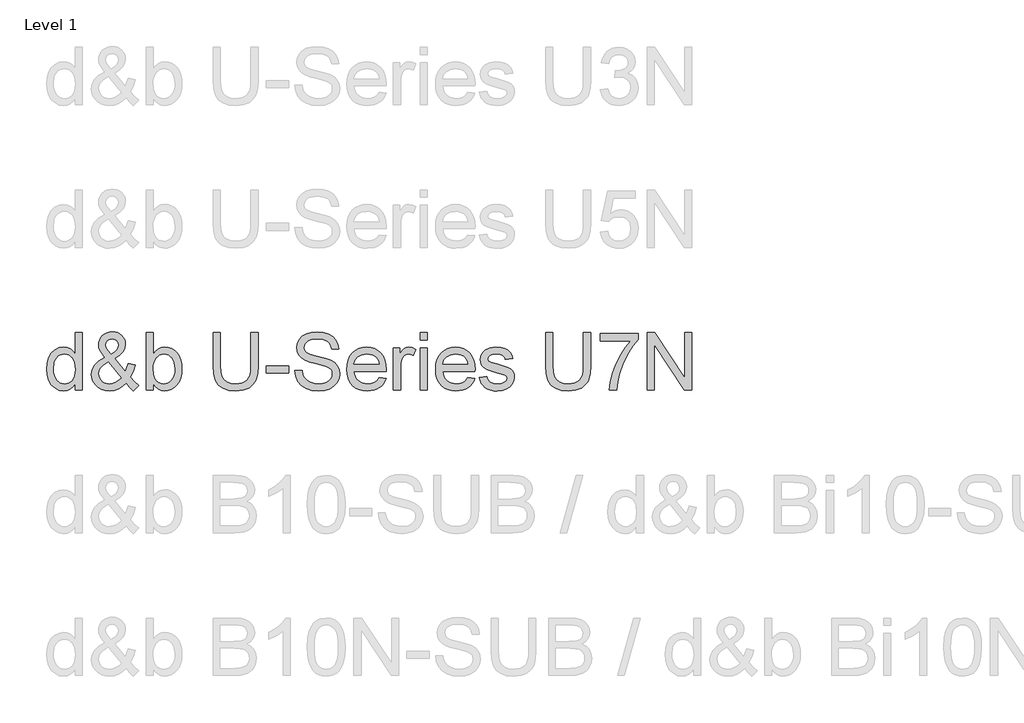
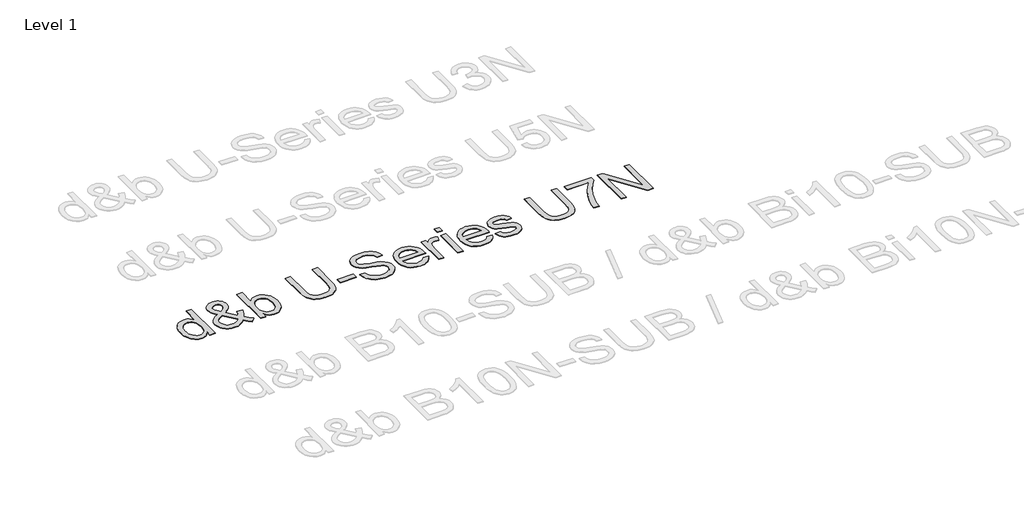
# One storey, part 20 of 29: 1 proxy.
"""IFC4 building model written with IfcOpenShell, lengths in millimetres."""

import ifcopenshell
import ifcopenshell.guid

model = None  # the IFC model being written
_history = None  # IfcOwnerHistory: only IFC2X3 demands one
_inside = {}  # id of a spatial element -> (the spatial element, [elements in it])
_under = {}  # id of a project, library or spatial element -> (it, [spatial elements below it])
_declared = {}  # id of a project -> (the project, [libraries it declares])
_typed = {}  # id of a type object -> (the type object, [elements of that type])
_made_of = {}  # id of a material, layer set ... -> (it, [elements and type objects made of it])


def new_model(schema):
    """Start an empty IFC model of exactly this schema.

    Asked for "IFC4X3", IfcOpenShell would pick the latest addendum, in which some entities
    have other attributes; the version numbers below select the first issue.
    IFC2X3 requires an IfcOwnerHistory on every rooted entity: one is made here for all.
    """
    global model, _history
    if schema == "IFC4X3":
        model = ifcopenshell.file(schema_version=(4, 3, 0, 0))
    else:
        model = ifcopenshell.file(schema=schema)
    _inside.clear()
    _under.clear()
    _declared.clear()
    _typed.clear()
    _made_of.clear()
    _history = None
    if model.schema == "IFC2X3":
        org = make("IfcOrganization", Name="unknown")
        user = make(
            "IfcPersonAndOrganization",
            ThePerson=make("IfcPerson", FamilyName="unknown"),
            TheOrganization=org,
        )
        app = make(
            "IfcApplication",
            ApplicationDeveloper=org,
            Version="unknown",
            ApplicationFullName="unknown",
            ApplicationIdentifier="unknown",
        )
        _history = make(
            "IfcOwnerHistory",
            OwningUser=user,
            OwningApplication=app,
            ChangeAction="ADDED",
            CreationDate=0,
        )
    return model


def make(cls, **values):
    """One entity of the class cls with the attributes given. An attribute that is None is left unset."""
    return model.create_entity(
        cls, **{name: value for name, value in values.items() if value is not None}
    )


def rooted(cls, **values):
    """An entity with a GlobalId (a new one), such as an element, a storey or a relation."""
    return make(cls, GlobalId=ifcopenshell.guid.new(), OwnerHistory=_history, **values)


def si_unit(unit_type, name, prefix=None):
    """IfcSIUnit, for example si_unit("LENGTHUNIT", "METRE", prefix="MILLI")."""
    return make("IfcSIUnit", UnitType=unit_type, Prefix=prefix, Name=name)


def assignment(units):
    """IfcUnitAssignment: the units of a project."""
    return None if units is None else make("IfcUnitAssignment", Units=units)


def point(xyz):
    """IfcCartesianPoint."""
    return None if xyz is None else make("IfcCartesianPoint", Coordinates=xyz)


def direction(xyz):
    """IfcDirection."""
    return None if xyz is None else make("IfcDirection", DirectionRatios=xyz)


def frame(location, z_axis=None, x_axis=None):
    """IfcAxis2Placement3D, a coordinate frame: its origin and axes. An axis left out is left unset."""
    return make(
        "IfcAxis2Placement3D",
        Location=point(location),
        Axis=direction(z_axis),
        RefDirection=direction(x_axis),
    )


def origin():
    """The frame at (0, 0, 0) with its axes left unset."""
    return frame((0.0, 0.0, 0.0))


def origin_with_axes():
    """The frame at (0, 0, 0) with the z axis (0, 0, 1) and the x axis (1, 0, 0) written out."""
    return frame((0.0, 0.0, 0.0), z_axis=(0.0, 0.0, 1.0), x_axis=(1.0, 0.0, 0.0))


def place(relative_to, where):
    """IfcLocalPlacement: puts the frame where relative to a parent placement (None: the world)."""
    return make(
        "IfcLocalPlacement", PlacementRelTo=relative_to, RelativePlacement=where
    )


def context(
    kind, dimensions, precision=None, world=None, true_north=None, identifier=None
):
    """IfcGeometricRepresentationContext, for example the 3D "Model" context."""
    return make(
        "IfcGeometricRepresentationContext",
        ContextIdentifier=identifier,
        ContextType=kind,
        CoordinateSpaceDimension=dimensions,
        Precision=precision,
        WorldCoordinateSystem=world,
        TrueNorth=true_north,
    )


def project(units=None, contexts=None):
    """IfcProject with its units and contexts."""
    return rooted(
        "IfcProject",
        Name="project",
        RepresentationContexts=contexts,
        UnitsInContext=assignment(units),
    )


def spatial(cls, under=None, at=None, **own):
    """A site, building, storey or space (cls), placed at a placement, below another one or the project."""
    s = rooted(cls, ObjectPlacement=at, **own)
    if under is not None:
        _under.setdefault(under.id(), (under, []))[1].append(s)
    return s


def polyline(points):
    """IfcPolyline through the points."""
    return make("IfcPolyline", Points=[point(p) for p in points])


def outline(outer, holes=None, kind="AREA"):
    """IfcArbitraryClosedProfileDef: a profile drawn as a closed curve; with holes, ...WithVoids."""
    if holes is None:
        return make("IfcArbitraryClosedProfileDef", ProfileType=kind, OuterCurve=outer)
    return make(
        "IfcArbitraryProfileDefWithVoids",
        ProfileType=kind,
        OuterCurve=outer,
        InnerCurves=holes,
    )


def extrude(swept, where, along, depth):
    """IfcExtrudedAreaSolid: the profile swept, set in the frame where, extruded along a direction by depth."""
    return make(
        "IfcExtrudedAreaSolid",
        SweptArea=swept,
        Position=where,
        ExtrudedDirection=direction(along),
        Depth=depth,
    )


def shape(context_of_items, identifier, shape_type, items):
    """IfcShapeRepresentation: the items that make up one representation, for example the "Body"."""
    return make(
        "IfcShapeRepresentation",
        ContextOfItems=context_of_items,
        RepresentationIdentifier=identifier,
        RepresentationType=shape_type,
        Items=items,
    )


def made_of(thing, what):
    """Note that an element or type object is made of a material, layer set ...; save() writes the relation."""
    if what is not None:
        _made_of.setdefault(what.id(), (what, []))[1].append(thing)
    return thing


def element(
    cls,
    number,
    at=None,
    inside=None,
    cuts=None,
    type_object=None,
    material=None,
    context=None,
    identifier="Body",
    shape_type=None,
    held_by="IfcProductDefinitionShape",
    body=None,
    shapes=None,
    **own,
):
    """One element of the class cls, such as IfcWall. Its Tag is "e" and its number.

    at: its placement. inside: the storey or other place that contains it. cuts: it is an
    opening in that element (IfcRelVoidsElement). A single representation is given by context,
    identifier, shape_type and body (its items); several are given by shapes. held_by: the class
    of the entity that holds the representations. save() writes the other relations.
    """
    e = rooted(cls, Tag="e%d" % number, ObjectPlacement=at, **own)
    if body is not None:
        shapes = [shape(context, identifier, shape_type, body)]
    if shapes is not None:
        e.Representation = make(held_by, Representations=shapes)
    if inside is not None:
        _inside.setdefault(inside.id(), (inside, []))[1].append(e)
    if cuts is not None:
        rooted(
            "IfcRelVoidsElement", RelatingBuildingElement=cuts, RelatedOpeningElement=e
        )
    if type_object is not None:
        _typed.setdefault(type_object.id(), (type_object, []))[1].append(e)
    return made_of(e, material)


def aggregate(whole, parts):
    """IfcRelAggregates: a whole, such as a stair, and the parts it consists of."""
    return rooted("IfcRelAggregates", RelatingObject=whole, RelatedObjects=parts)


def save(model, path):
    """Write the relations noted so far, then the file.

    IfcRelAggregates (storeys below a building ...), IfcRelContainedInSpatialStructure (elements
    in a storey), IfcRelDefinesByType, IfcRelAssociatesMaterial and IfcRelDeclares: one each for
    every whole, place, type object, material and project.
    """
    for whole, parts in _under.values():
        aggregate(whole, parts)
    for where, things in _inside.values():
        rooted(
            "IfcRelContainedInSpatialStructure",
            RelatedElements=things,
            RelatingStructure=where,
        )
    for kind, things in _typed.values():
        rooted("IfcRelDefinesByType", RelatedObjects=things, RelatingType=kind)
    for what, things in _made_of.values():
        rooted("IfcRelAssociatesMaterial", RelatedObjects=things, RelatingMaterial=what)
    for by, libraries in _declared.values():
        rooted("IfcRelDeclares", RelatingContext=by, RelatedDefinitions=libraries)
    model.write(path)


model = new_model("IFC4")

# Units and contexts
model_context = context("Model", 3, world=origin())
ifc_project = project(units=[si_unit("LENGTHUNIT", "METRE", prefix="MILLI")], contexts=[model_context])

# Site, building, storey
site = spatial("IfcSite", under=ifc_project)
building = spatial("IfcBuilding", under=site)
storey = spatial("IfcBuildingStorey", under=building, Name="Level 1", Elevation=0.0)

# Proxy
placement = place(None, origin())
element("IfcBuildingElementProxy", 1, Name="400mm Arial", ObjectType="400mm Arial", at=placement, inside=storey, context=model_context, shape_type="SweptSolid", body=[
    extrude(outline(polyline([(-20788.4119982, 11464.3636615), (-20788.4119982, 11511.7468625), (-20803.4399777, 11488.2698598), (-20821.6440051, 11471.5005722), (-20843.0240804, 11461.4389996), (-20867.5802036, 11458.0851421), (-20900.051921, 11462.9411844), (-20929.7767862, 11477.5093115), (-20954.9399147, 11500.7717163), (-20973.7264219, 11531.7105921), (-20985.4250694, 11569.0751401), (-20989.3246185, 11611.6145614), (-20985.7316377, 11653.6266853), (-20974.9526952, 11691.5675817), (-20957.0000539, 11723.2790097), (-20931.8859763, 11746.6027282), (-20901.5111863, 11760.950126), (-20867.7764073, 11765.7325919), (-20843.20189, 11762.3112894), (-20821.4723268, 11752.0473817), (-20803.0537016, 11736.3142951), (-20788.4119982, 11716.4854555), (-20788.4119982, 11866.1889021), (-20738.1838431, 11866.1889021), (-20738.1838431, 11464.3636615), (-20788.4119982, 11464.3636615)]), holes=[polyline([(-20939.0964634, 11611.8107652), (-20937.6801177, 11587.4539114), (-20933.4310807, 11566.3773388), (-20926.3493523, 11548.5810472), (-20916.4349325, 11534.0650368), (-20891.7377879, 11514.7512321), (-20877.8625053, 11509.9227809), (-20862.9694159, 11508.3132972), (-20848.0058157, 11509.8492045), (-20834.2133066, 11514.4569265), (-20810.1415614, 11532.8878145), (-20800.6348775, 11546.7968196), (-20793.844389, 11563.9493176), (-20788.4119982, 11607.9847924), (-20793.9424909, 11656.1282828), (-20800.8556067, 11674.663404), (-20810.5339688, 11689.5074425), (-20822.235682, 11700.8811276), (-20835.2188507, 11709.0051883), (-20849.4834751, 11713.8796247), (-20865.0295551, 11715.5044369), (-20880.2169501, 11713.9440041), (-20894.0922327, 11709.2627057), (-20906.6554028, 11701.4605417), (-20917.9064605, 11690.5375121), (-20927.1770868, 11676.2544937), (-20933.7989627, 11658.372363), (-20939.0964634, 11611.8107652)])]), origin_with_axes(), (0.0, 0.0, 1.0), 5.0),
    extrude(outline(polyline([(-20432.4003287, 11514.0032054), (-20457.9313392, 11489.5390527), (-20485.6696416, 11472.0646579), (-20515.664287, 11461.5800211), (-20547.9643262, 11458.0851421), (-20577.2722584, 11460.6725788), (-20603.3918801, 11468.4348889), (-20626.3231911, 11481.3720724), (-20646.0661915, 11499.4841293), (-20658.8991418, 11516.8542908), (-20668.0655348, 11535.2177338), (-20673.5653707, 11554.5744581), (-20675.3986493, 11574.9244638), (-20669.5002746, 11610.118508), (-20651.8051507, 11641.7318341), (-20622.3868538, 11669.7399167), (-20581.3189604, 11694.1182302), (-20603.2324646, 11722.4696693), (-20616.3903773, 11744.9349965), (-20622.975465, 11764.1139112), (-20625.1704942, 11782.6061128), (-20623.4414488, 11800.1602153), (-20618.2543127, 11816.5248327), (-20609.6090858, 11831.699965), (-20597.5057682, 11845.6856122), (-20582.784357, 11857.4026538), (-20566.2848495, 11865.7719692), (-20548.0072457, 11870.7935584), (-20527.9515456, 11872.4674215), (-20508.8032878, 11870.8671348), (-20491.4821772, 11866.0662748), (-20475.9882138, 11858.0648414), (-20462.3213977, 11846.8628346), (-20451.1623105, 11833.4167477), (-20443.1915339, 11818.6830738), (-20438.409068, 11802.6618129), (-20436.8149127, 11785.352965), (-20441.5360649, 11757.3694079), (-20455.6995218, 11731.4950409), (-20479.3052831, 11707.729864), (-20512.353349, 11686.0738773), (-20439.6598668, 11595.5258555), (-20427.2745063, 11621.4002225), (-20417.9793545, 11651.1496132), (-20367.7511994, 11640.2603061), (-20383.2022432, 11593.7354965), (-20403.2640747, 11557.5604336), (-20374.7164319, 11524.2548503), (-20342.6371219, 11496.7372771), (-20380.3082382, 11458.0851421), (-20405.9373505, 11481.5314879), (-20432.4003287, 11514.0032054)]), holes=[polyline([(-20537.7617322, 11717.7607798), (-20511.4949577, 11734.4258341), (-20496.4608468, 11748.908122), (-20489.3975125, 11762.9980024), (-20487.0430678, 11778.4858344), (-20490.1455392, 11796.0338056), (-20499.4529537, 11810.0255842), (-20513.4202068, 11819.1858458), (-20530.5021941, 11822.2392664), (-20547.9520634, 11819.2103713), (-20562.2381476, 11810.123686), (-20571.7662912, 11796.6714677), (-20574.9423391, 11780.5459736), (-20570.6258571, 11762.1518739), (-20557.578309, 11741.6976349), (-20537.7617322, 11717.7607798)]), polyline([(-20466.0492686, 11550.2027937), (-20555.7143735, 11662.1370221), (-20589.9641873, 11640.2848316), (-20610.8966728, 11620.0513218), (-20621.6020389, 11600.7252544), (-20625.1704942, 11581.5953906), (-20620.2899264, 11557.9037901), (-20605.648223, 11533.3292729), (-20594.8692805, 11522.3847835), (-20582.0547244, 11514.5672911), (-20567.2045545, 11509.8767957), (-20550.3187709, 11508.3132972), (-20527.5959264, 11511.2318277), (-20504.1618433, 11519.9874192), (-20482.7388484, 11533.3783238), (-20466.0492686, 11550.2027937)])]), origin_with_axes(), (0.0, 0.0, 1.0), 5.0),
    extrude(outline(polyline([(-20242.1808118, 11464.3636615), (-20292.4089668, 11464.3636615), (-20292.4089668, 11866.1889021), (-20242.1808118, 11866.1889021), (-20242.1808118, 11717.1721686), (-20225.6629102, 11738.4173538), (-20207.011293, 11753.5924861), (-20186.2259603, 11762.6975655), (-20163.306912, 11765.7325919), (-20137.432545, 11762.9980024), (-20112.9806551, 11754.7942339), (-20091.3491937, 11741.6363213), (-20073.9361126, 11724.0392992), (-20060.2876906, 11702.1748459), (-20049.9502065, 11676.2146398), (-20043.4386952, 11647.2378013), (-20041.2681915, 11616.323451), (-20043.5153373, 11580.6511602), (-20050.2567749, 11549.270826), (-20061.4925041, 11522.1824484), (-20077.2225251, 11499.3860274), (-20096.1040685, 11481.3168901), (-20116.7943651, 11468.4103634), (-20139.2934148, 11460.6664474), (-20163.6012176, 11458.0851421), (-20187.274424, 11461.4144742), (-20208.2620918, 11471.4024703), (-20226.5642211, 11488.0491306), (-20242.1808118, 11511.354455), (-20242.1808118, 11464.3636615)]), holes=[polyline([(-20242.1808118, 11613.9690062), (-20238.7472465, 11572.0795097), (-20228.4465506, 11543.7280706), (-20216.2757879, 11528.2341072), (-20202.1307252, 11517.1669905), (-20186.0113625, 11510.5267205), (-20167.9176997, 11508.3132972), (-20152.8958515, 11509.9442407), (-20138.9285984, 11514.8370712), (-20126.0159404, 11522.9917888), (-20114.1578774, 11534.4083934), (-20104.2434577, 11549.0562281), (-20097.1617293, 11566.9046363), (-20092.9126922, 11587.9536178), (-20091.4963465, 11612.2031726), (-20096.9287373, 11658.1638965), (-20103.7192258, 11675.9571224), (-20113.2259097, 11690.2922575), (-20124.6578427, 11701.322586), (-20137.2240785, 11709.201392), (-20150.9246172, 11713.9286757), (-20165.7594586, 11715.5044369), (-20180.7813068, 11713.8734934), (-20194.7485599, 11708.9806628), (-20207.6612179, 11700.8259453), (-20219.5192809, 11689.4093407), (-20229.4337006, 11674.9086587), (-20236.515429, 11657.501709), (-20240.7644661, 11637.1884915), (-20242.1808118, 11613.9690062)])]), origin_with_axes(), (0.0, 0.0, 1.0), 5.0),
    extrude(outline(polyline([(-19557.8221989, 11866.1889021), (-19507.5940438, 11866.1889021), (-19507.5940438, 11634.3741942), (-19511.0030836, 11580.0870744), (-19521.2302031, 11538.2834171), (-19529.4155775, 11521.3301884), (-19540.3355414, 11506.0324288), (-19570.3792376, 11480.4033165), (-19589.5213641, 11470.6391152), (-19611.4348683, 11463.6646857), (-19663.5760097, 11458.0851421), (-19714.576717, 11462.9411844), (-19755.3503048, 11477.5093115), (-19771.9049946, 11488.3097137), (-19785.9090359, 11501.2867511), (-19797.3624287, 11516.4404236), (-19806.2651729, 11533.7707312), (-19817.706303, 11577.3402222), (-19821.520013, 11634.3741942), (-19821.520013, 11866.1889021), (-19771.2918579, 11866.1889021), (-19771.2918579, 11636.1400278), (-19768.8147858, 11591.000907), (-19761.3835695, 11559.5715218), (-19747.9190885, 11537.8051705), (-19727.3422222, 11521.6551509), (-19700.5113621, 11511.6487606), (-19668.2848993, 11508.3132972), (-19640.6017791, 11509.9626348), (-19617.1983529, 11514.9106476), (-19598.0746205, 11523.1573357), (-19583.230582, 11534.702699), (-19572.1144144, 11550.9385577), (-19564.1742947, 11573.2567321), (-19559.4102228, 11601.6572221), (-19557.8221989, 11636.1400278), (-19557.8221989, 11866.1889021)])), origin_with_axes(), (0.0, 0.0, 1.0), 5.0),
    extrude(outline(polyline([(-19451.0873693, 11583.6555298), (-19451.0873693, 11633.8836849), (-19294.1243847, 11633.8836849), (-19294.1243847, 11583.6555298), (-19451.0873693, 11583.6555298)])), origin_with_axes(), (0.0, 0.0, 1.0), 5.0),
    extrude(outline(polyline([(-19250.174749, 11602.4910879), (-19199.946594, 11602.4910879), (-19194.1831094, 11574.6178954), (-19183.7597862, 11552.2138819), (-19167.499402, 11534.4329188), (-19144.2247344, 11520.4288776), (-19115.7751935, 11511.3421923), (-19083.9901891, 11508.3132972), (-19056.006632, 11510.6064283), (-19031.5056911, 11517.4858216), (-19011.6523261, 11528.3751287), (-18997.6114966, 11542.698001), (-18989.2605753, 11559.1423262), (-18986.4769349, 11576.3959918), (-18988.5615995, 11593.2081989), (-18994.8155934, 11607.7395377), (-19007.519785, 11620.137161), (-19028.9550426, 11630.5482214), (-19102.0899832, 11649.7271361), (-19150.0985836, 11662.419065), (-19180.8167302, 11674.4978571), (-19205.8204431, 11691.3959034), (-19223.5400926, 11711.8746678), (-19234.0983058, 11735.4926919), (-19237.6177103, 11761.8085173), (-19233.26444, 11791.2268142), (-19220.2046292, 11818.6585483), (-19198.7816343, 11841.9086904), (-19169.338812, 11858.7822113), (-19133.997615, 11869.0461189), (-19094.8794961, 11872.4674215), (-19052.4994903, 11868.8867034), (-19015.4169852, 11858.1445491), (-18984.956356, 11840.4616879), (-18962.4419779, 11816.0588489), (-18948.1926819, 11786.456611), (-18942.5272992, 11753.1755532), (-18992.7554543, 11753.1755532), (-19001.9770296, 11783.145673), (-19010.3402136, 11795.003736), (-19021.2049952, 11804.7771344), (-19051.2486915, 11817.8737334), (-19092.9174588, 11822.2392664), (-19135.5672448, 11817.9227843), (-19151.8705486, 11812.5271817), (-19164.8261262, 11804.9733381), (-19181.7486979, 11785.9170507), (-19187.3895552, 11763.2800453), (-19183.3919042, 11743.9785033), (-19171.3989511, 11728.4538831), (-19143.047512, 11714.5724691), (-19089.3857917, 11700.3967496), (-19034.0072887, 11686.9322686), (-19000.5055016, 11675.1845702), (-18971.8720197, 11656.9621487), (-18951.8960273, 11634.4722961), (-18940.1605917, 11607.9602669), (-18936.2487798, 11577.671316), (-18940.7492029, 11546.7079147), (-18954.2504721, 11517.5839235), (-18976.2007645, 11492.5188969), (-19006.048257, 11473.7323896), (-19041.941277, 11461.996954), (-19082.0281518, 11458.0851421), (-19131.2385, 11462.3035223), (-19171.7423077, 11474.958663), (-19204.0055586, 11496.0996149), (-19228.4942368, 11525.7754292), (-19244.2150607, 11561.9259666), (-19250.174749, 11602.4910879)])), origin_with_axes(), (0.0, 0.0, 1.0), 5.0),
    extrude(outline(polyline([(-18660.5825381, 11552.2629329), (-18611.3354017, 11545.9844135), (-18618.8861796, 11526.2598072), (-18629.0795766, 11508.8773829), (-18641.9155925, 11493.8371407), (-18657.3942275, 11481.1390805), (-18675.3560659, 11471.0529824), (-18695.6416922, 11463.8486267), (-18743.1843087, 11458.0851421), (-18774.3500451, 11460.5714113), (-18802.1190044, 11468.0302187), (-18826.4911866, 11480.4615645), (-18847.4665916, 11497.8654485), (-18864.3339811, 11519.7574929), (-18876.3821165, 11545.6533197), (-18883.6109977, 11575.5529288), (-18886.0206247, 11609.4563204), (-18883.5864722, 11644.5093432), (-18876.2840146, 11675.4052994), (-18864.1132519, 11702.1441891), (-18847.0741842, 11724.7260122), (-18826.1539614, 11742.6663908), (-18802.3397336, 11755.480947), (-18775.6315007, 11763.1696807), (-18746.0292628, 11765.7325919), (-18717.3804525, 11763.1758121), (-18691.472363, 11755.5054725), (-18668.3049943, 11742.7215731), (-18647.8783465, 11724.8241141), (-18631.2040951, 11702.2913419), (-18619.2939155, 11675.6015031), (-18612.1478077, 11644.7545978), (-18609.7657718, 11609.750626), (-18610.0600774, 11596.2125686), (-18835.7924697, 11596.2125686), (-18832.8831362, 11576.1691312), (-18827.0981918, 11558.6150287), (-18818.4376365, 11543.550261), (-18806.9014703, 11530.9748281), (-18793.1273553, 11521.0604083), (-18777.7529536, 11513.9786799), (-18742.2032901, 11508.3132972), (-18715.4705318, 11510.9375221), (-18692.9561537, 11518.8101968), (-18674.6601558, 11532.4218306), (-18660.5825381, 11552.2629329)]), holes=[polyline([(-18835.7924697, 11646.4407236), (-18659.9939269, 11646.4407236), (-18666.7874811, 11672.9772782), (-18680.1048093, 11691.9599892), (-18693.8022823, 11702.260685), (-18709.3882161, 11709.6183249), (-18726.8626109, 11714.0329089), (-18746.2254666, 11715.5044369), (-18780.0828729, 11710.8078101), (-18808.0786927, 11696.7179296), (-18827.5396502, 11674.7553745), (-18835.7924697, 11646.4407236)])]), origin_with_axes(), (0.0, 0.0, 1.0), 5.0),
    extrude(outline(polyline([(-18559.5376168, 11464.3636615), (-18559.5376168, 11759.4540726), (-18515.5879811, 11759.4540726), (-18515.5879811, 11715.7987425), (-18499.3521223, 11741.1090237), (-18484.3915879, 11756.0205073), (-18469.3820025, 11763.3045708), (-18452.998991, 11765.7325919), (-18427.9830153, 11761.8575683), (-18402.5746321, 11750.2324972), (-18419.3500511, 11705.203741), (-18437.0083869, 11712.9292629), (-18454.6667227, 11715.5044369), (-18469.6640453, 11713.0273648), (-18483.0672127, 11705.5961485), (-18493.8952061, 11693.7748737), (-18501.1670069, 11678.1276262), (-18507.273848, 11650.0704927), (-18509.3094617, 11619.4627107), (-18509.3094617, 11464.3636615), (-18559.5376168, 11464.3636615)])), origin_with_axes(), (0.0, 0.0, 1.0), 5.0),
    extrude(outline(polyline([(-18371.1820352, 11815.960747), (-18371.1820352, 11866.1889021), (-18320.9538802, 11866.1889021), (-18320.9538802, 11815.960747), (-18371.1820352, 11815.960747)])), origin_with_axes(), (0.0, 0.0, 1.0), 5.0),
    extrude(outline(polyline([(-18371.1820352, 11464.3636615), (-18371.1820352, 11759.4540726), (-18320.9538802, 11759.4540726), (-18320.9538802, 11464.3636615), (-18371.1820352, 11464.3636615)])), origin_with_axes(), (0.0, 0.0, 1.0), 5.0),
    extrude(outline(polyline([(-18039.009119, 11552.2629329), (-17989.7619826, 11545.9844135), (-17997.3127606, 11526.2598072), (-18007.5061575, 11508.8773829), (-18020.3421735, 11493.8371407), (-18035.8208084, 11481.1390805), (-18053.7826468, 11471.0529824), (-18074.0682732, 11463.8486267), (-18121.6108897, 11458.0851421), (-18152.7766261, 11460.5714113), (-18180.5455853, 11468.0302187), (-18204.9177675, 11480.4615645), (-18225.8931726, 11497.8654485), (-18242.7605621, 11519.7574929), (-18254.8086974, 11545.6533197), (-18262.0375786, 11575.5529288), (-18264.4472057, 11609.4563204), (-18262.0130532, 11644.5093432), (-18254.7105956, 11675.4052994), (-18242.5398329, 11702.1441891), (-18225.5007651, 11724.7260122), (-18204.5805423, 11742.6663908), (-18180.7663145, 11755.480947), (-18154.0580817, 11763.1696807), (-18124.4558438, 11765.7325919), (-18095.8070334, 11763.1758121), (-18069.8989439, 11755.5054725), (-18046.7315753, 11742.7215731), (-18026.3049275, 11724.8241141), (-18009.630676, 11702.2913419), (-17997.7204965, 11675.6015031), (-17990.5743887, 11644.7545978), (-17988.1923528, 11609.750626), (-17988.4866584, 11596.2125686), (-18214.2190506, 11596.2125686), (-18211.3097172, 11576.1691312), (-18205.5247728, 11558.6150287), (-18196.8642175, 11543.550261), (-18185.3280513, 11530.9748281), (-18171.5539362, 11521.0604083), (-18156.1795345, 11513.9786799), (-18120.629871, 11508.3132972), (-18093.8971127, 11510.9375221), (-18071.3827346, 11518.8101968), (-18053.0867367, 11532.4218306), (-18039.009119, 11552.2629329)]), holes=[polyline([(-18214.2190506, 11646.4407236), (-18038.4205079, 11646.4407236), (-18045.214062, 11672.9772782), (-18058.5313903, 11691.9599892), (-18072.2288632, 11702.260685), (-18087.8147971, 11709.6183249), (-18105.2891918, 11714.0329089), (-18124.6520475, 11715.5044369), (-18158.5094538, 11710.8078101), (-18186.5052736, 11696.7179296), (-18205.9662312, 11674.7553745), (-18214.2190506, 11646.4407236)])]), origin_with_axes(), (0.0, 0.0, 1.0), 5.0),
    extrude(outline(polyline([(-17956.7997559, 11552.2629329), (-17906.5716008, 11558.5414523), (-17898.6498752, 11537.0571437), (-17883.3214587, 11521.2627434), (-17860.4882495, 11511.5506587), (-17830.0521458, 11508.3132972), (-17799.983924, 11511.2808786), (-17778.8429721, 11520.1836229), (-17766.3349842, 11533.0840182), (-17762.1656549, 11548.0445527), (-17766.3595097, 11560.8468461), (-17778.9410739, 11570.6079817), (-17830.640757, 11584.930854), (-17906.2772952, 11609.5053713), (-17925.4194217, 11621.8539436), (-17939.2885729, 11638.2001669), (-17947.7130706, 11657.501709), (-17950.5212365, 11678.7162373), (-17948.2648936, 11698.1771949), (-17941.4958649, 11716.142099), (-17930.827287, 11731.8997111), (-17916.8722966, 11744.7387927), (-17884.9401395, 11759.6012254), (-17864.0567049, 11764.1997503), (-17841.7262678, 11765.7325919), (-17809.0338211, 11763.2677826), (-17780.6088056, 11755.8733545), (-17757.751071, 11744.2728089), (-17741.7604669, 11729.1896471), (-17731.1654655, 11709.5079603), (-17724.4945386, 11684.1118399), (-17774.7226937, 11677.8333206), (-17781.0625268, 11693.6399836), (-17793.6073028, 11705.5470975), (-17812.4796492, 11713.015102), (-17837.8021932, 11715.5044369), (-17866.6441416, 11713.1254666), (-17885.8721072, 11705.9885559), (-17896.6878378, 11695.6878601), (-17900.2930814, 11683.8175343), (-17894.3088676, 11669.2003564), (-17875.5714113, 11658.1148456), (-17832.3084887, 11647.4217423), (-17758.5849369, 11623.7791927), (-17739.1117166, 11612.4729527), (-17724.3473858, 11596.9973835), (-17715.0399714, 11577.303434), (-17711.9374999, 11553.3420534), (-17715.5795316, 11528.5713324), (-17726.5056269, 11505.2721394), (-17744.2988527, 11485.2716215), (-17768.5422762, 11470.3969262), (-17797.825683, 11461.1630881), (-17830.7388588, 11458.0851421), (-17857.7720541, 11459.5689328), (-17881.3839468, 11464.020305), (-17901.574537, 11471.4392585), (-17918.3438246, 11481.8257935), (-17932.0412976, 11495.130859), (-17943.0164438, 11511.3054041), (-17951.2692632, 11530.3494287), (-17956.7997559, 11552.2629329)])), origin_with_axes(), (0.0, 0.0, 1.0), 5.0),
    extrude(outline(polyline([(-17228.4915073, 11866.1889021), (-17178.2633522, 11866.1889021), (-17178.2633522, 11634.3741942), (-17181.672392, 11580.0870744), (-17191.8995115, 11538.2834171), (-17200.0848859, 11521.3301884), (-17211.0048498, 11506.0324288), (-17241.048546, 11480.4033165), (-17260.1906725, 11470.6391152), (-17282.1041767, 11463.6646857), (-17334.2453182, 11458.0851421), (-17385.2460254, 11462.9411844), (-17426.0196132, 11477.5093115), (-17442.574303, 11488.3097137), (-17456.5783443, 11501.2867511), (-17468.0317371, 11516.4404236), (-17476.9344814, 11533.7707312), (-17488.3756114, 11577.3402222), (-17492.1893214, 11634.3741942), (-17492.1893214, 11866.1889021), (-17441.9611663, 11866.1889021), (-17441.9611663, 11636.1400278), (-17439.4840942, 11591.000907), (-17432.0528779, 11559.5715218), (-17418.5883969, 11537.8051705), (-17398.0115307, 11521.6551509), (-17371.1806705, 11511.6487606), (-17338.9542077, 11508.3132972), (-17311.2710876, 11509.9626348), (-17287.8676613, 11514.9106476), (-17268.7439289, 11523.1573357), (-17253.8998904, 11534.702699), (-17242.7837228, 11550.9385577), (-17234.8436031, 11573.2567321), (-17230.0795312, 11601.6572221), (-17228.4915073, 11636.1400278), (-17228.4915073, 11866.1889021)])), origin_with_axes(), (0.0, 0.0, 1.0), 5.0),
    extrude(outline(polyline([(-17109.199639, 11809.6822276), (-17109.199639, 11859.9103827), (-16845.5018248, 11859.9103827), (-16845.5018248, 11819.2962104), (-16883.087102, 11771.7290685), (-16920.3044972, 11711.2370057), (-16953.1318339, 11643.3382521), (-16977.5469356, 11573.5510377), (-16989.5153632, 11521.3363198), (-16996.1862901, 11464.3636615), (-17046.4144451, 11464.3636615), (-17040.9820543, 11516.1369209), (-17026.4507155, 11577.671316), (-17003.2128362, 11642.8967937), (-16971.6608237, 11705.7433013), (-16934.8235733, 11762.556544), (-16895.7299799, 11809.6822276), (-17109.199639, 11809.6822276)])), origin_with_axes(), (0.0, 0.0, 1.0), 5.0),
    extrude(outline(polyline([(-16782.716631, 11464.3636615), (-16782.716631, 11866.1889021), (-16728.9568088, 11866.1889021), (-16519.0188168, 11547.8483489), (-16519.0188168, 11866.1889021), (-16468.7906618, 11866.1889021), (-16468.7906618, 11464.3636615), (-16522.550484, 11464.3636615), (-16732.4884759, 11782.8023165), (-16732.4884759, 11464.3636615), (-16782.716631, 11464.3636615)])), origin_with_axes(), (0.0, 0.0, 1.0), 5.0),
])

save(model, "model.ifc")
